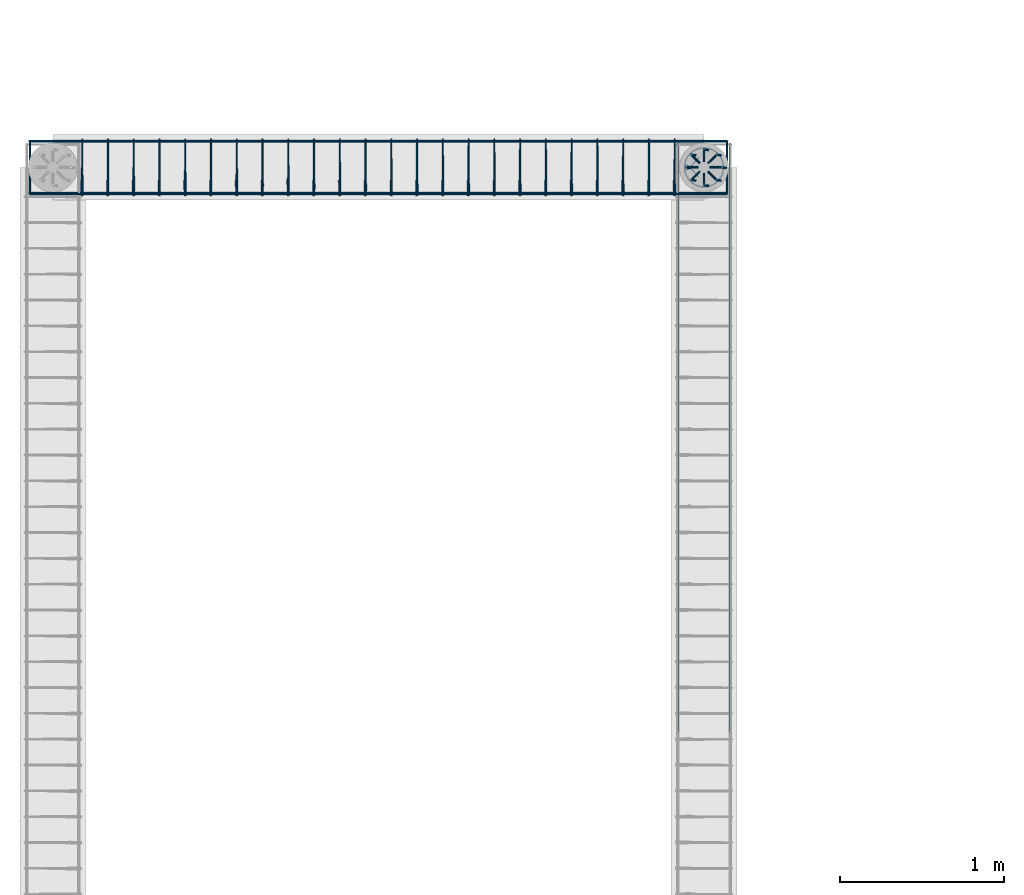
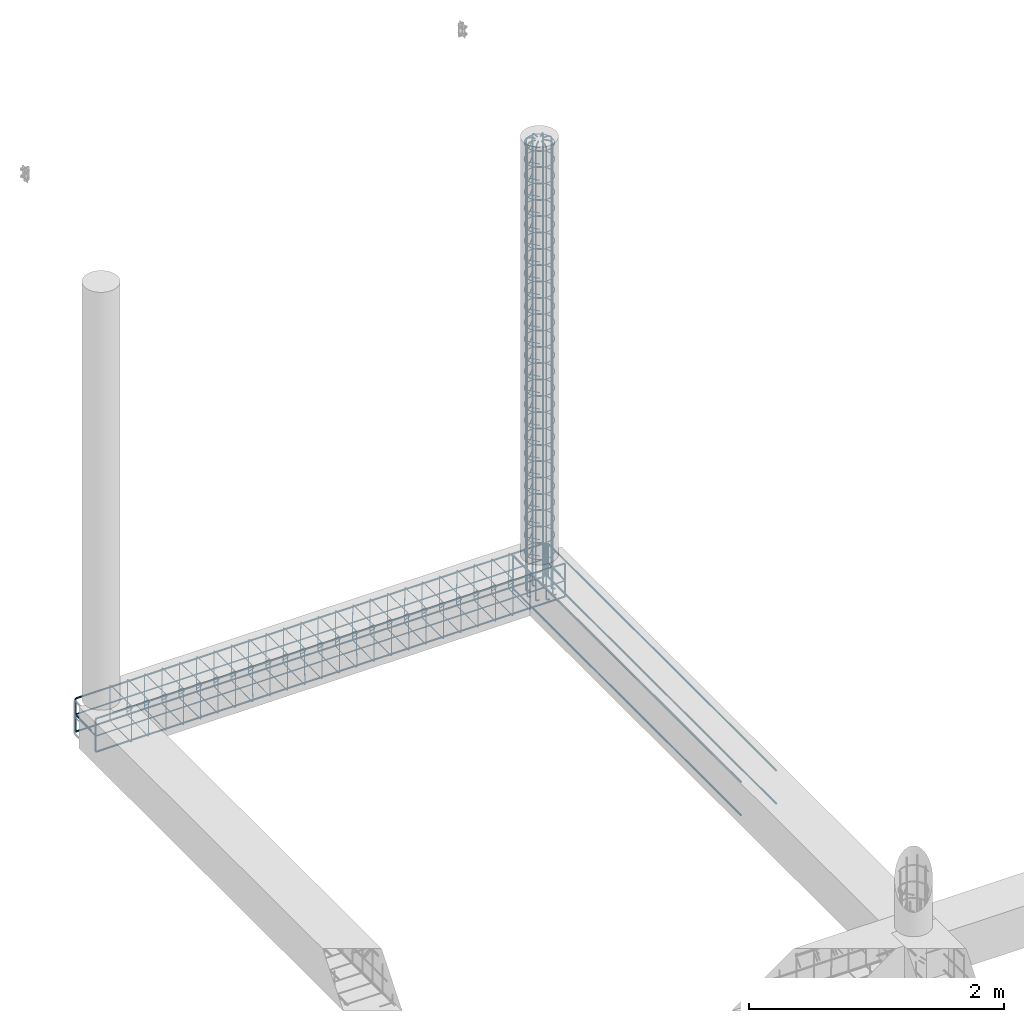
# One storey, part 16 of 20: 8 reinforcing bars.
"""IFC4 building model written with IfcOpenShell, lengths in metres."""

from ifc_helpers import new_model, entity, si_unit, origin_with_axes, place, context, project, spatial, source, transform, mapped, element, save


model = new_model("IFC4")

# Units and contexts
model_context = context("Model", 3, precision=1e-05, world=origin_with_axes())
ifc_project = project(units=[si_unit("LENGTHUNIT", "METRE"), si_unit("AREAUNIT", "SQUARE_METRE"), si_unit("VOLUMEUNIT", "CUBIC_METRE"), si_unit("MASSUNIT", "GRAM", prefix="KILO"), si_unit("TIMEUNIT", "SECOND"), si_unit("PLANEANGLEUNIT", "RADIAN"), si_unit("SOLIDANGLEUNIT", "STERADIAN"), si_unit("THERMODYNAMICTEMPERATUREUNIT", "DEGREE_CELSIUS")], contexts=[model_context])

# Site, building, storey
placement_1 = place(None, origin_with_axes())
site = spatial("IfcSite", under=ifc_project, at=placement_1, Name="Italia", CompositionType="ELEMENT")
building = spatial("IfcBuilding", under=site, at=placement_1, Name="Tettoia", CompositionType="ELEMENT")
storey = spatial("IfcBuildingStorey", under=building, at=placement_1, Name="Storey 0", CompositionType="ELEMENT", Elevation=0.0)

# Reinforcing bars
shared_shape_1 = source(origin_with_axes(), model_context, "Body", "AdvancedSweptSolid", [
    entity("IfcSweptDiskSolid", entity("IfcIndexedPolyCurve", entity("IfcCartesianPointList3D", [[3.99102, 19.816, -0.375], [3.97714, 19.8179, -0.375], [3.97097, 19.8187, -0.373761], [3.96573, 19.8194, -0.370231], [3.96223, 19.8198, -0.364949], [3.961, 19.82, -0.358718], [3.961, 19.82, 0.5725]]), [entity("IfcLineIndex", [1, 2]), entity("IfcLineIndex", [2, 3]), entity("IfcLineIndex", [3, 4]), entity("IfcLineIndex", [4, 5]), entity("IfcLineIndex", [5, 6]), entity("IfcLineIndex", [6, 7])], False), 0.007),
])
placement_2 = place(placement_1, origin_with_axes())
reinforcing_bar_1_placement = place(placement_2, origin_with_axes())
element("IfcReinforcingBar", 1, at=reinforcing_bar_1_placement, inside=storey, BarLength=0.97063, CrossSectionArea=0.00015394, NominalDiameter=0.014, context=model_context, shape_type="MappedRepresentation", body=[
    mapped(shared_shape_1, transform((0.186073, -0.077076, 0.0), x_axis=(1.0, 0.0, 0.0), y_axis=(0.0, 1.0, 0.0), z_axis=(0.0, 0.0, 1.0), scale=1.0)),
    mapped(shared_shape_1, transform((0.108999, -0.109003, 4.02629e-05), x_axis=(1.0, 0.0, 0.0), y_axis=(0.0, 1.0, 0.0), z_axis=(0.0, 0.0, 1.0), scale=1.0)),
    mapped(shared_shape_1, transform((0.031925, -0.077076, 0.0), x_axis=(1.0, 0.0, 0.0), y_axis=(0.0, 1.0, 0.0), z_axis=(0.0, 0.0, 1.0), scale=1.0)),
    mapped(shared_shape_1, transform((0.218087, -1.71661e-05, 0.0), x_axis=(1.0, 0.0, 0.0), y_axis=(0.0, 1.0, 0.0), z_axis=(0.0, 0.0, 1.0), scale=1.0)),
    mapped(shared_shape_1, transform((0.0, 0.0, 0.0), x_axis=(1.0, 0.0, 0.0), y_axis=(0.0, 1.0, 0.0), z_axis=(0.0, 0.0, 1.0), scale=1.0)),
    mapped(shared_shape_1, transform((0.186073, 0.0770721, 0.0), x_axis=(1.0, 0.0, 0.0), y_axis=(0.0, 1.0, 0.0), z_axis=(0.0, 0.0, 1.0), scale=1.0)),
    mapped(shared_shape_1, transform((0.031925, 0.0770721, 0.0), x_axis=(1.0, 0.0, 0.0), y_axis=(0.0, 1.0, 0.0), z_axis=(0.0, 0.0, 1.0), scale=1.0)),
    mapped(shared_shape_1, transform((0.109087, 0.108982, 0.0), x_axis=(1.0, 0.0, 0.0), y_axis=(0.0, 1.0, 0.0), z_axis=(0.0, 0.0, 1.0), scale=1.0)),
])
shared_shape_2 = source(origin_with_axes(), model_context, "Body", "AdvancedSweptSolid", [
    entity("IfcSweptDiskSolid", entity("IfcIndexedPolyCurve", entity("IfcCartesianPointList3D", [[3.961, 19.82, 0.0], [3.961, 19.82, 3.94], [3.96366, 19.82, 3.95339], [3.97125, 19.82, 3.96475], [3.98261, 19.82, 3.97234], [3.996, 19.82, 3.975], [4.036, 19.82, 3.975]]), [entity("IfcLineIndex", [1, 2]), entity("IfcLineIndex", [2, 3]), entity("IfcLineIndex", [3, 4]), entity("IfcLineIndex", [4, 5]), entity("IfcLineIndex", [5, 6]), entity("IfcLineIndex", [6, 7])], False), 0.007),
])
reinforcing_bar_2_placement = place(placement_2, origin_with_axes())
element("IfcReinforcingBar", 2, at=reinforcing_bar_2_placement, inside=storey, BarLength=4.03463, CrossSectionArea=0.00015394, NominalDiameter=0.014, context=model_context, shape_type="MappedRepresentation", body=[
    mapped(shared_shape_2, transform((20.9626, 30.9572, 0.0), x_axis=(-0.707116, 0.707097, 0.0), y_axis=(-0.707097, -0.707116, 0.0), z_axis=(0.0, 0.0, 1.0), scale=1.0)),
    mapped(shared_shape_2, transform((8.14, 39.64, 0.0), x_axis=(-1.0, 0.0, 0.0), y_axis=(0.0, -1.0, 0.0), z_axis=(0.0, 0.0, 1.0), scale=1.0)),
    mapped(shared_shape_2, transform((15.2067, 2.92709, 0.0), x_axis=(0.707115, 0.707099, 0.0), y_axis=(-0.707099, 0.707115, 0.0), z_axis=(0.0, 0.0, 1.0), scale=1.0)),
    mapped(shared_shape_2, transform((23.89, 15.75, 0.0), x_axis=(0.0, 1.0, 0.0), y_axis=(-1.0, 0.0, 0.0), z_axis=(0.0, 0.0, 1.0), scale=1.0)),
    mapped(shared_shape_2, transform((-12.8227, 8.68288, 0.0), x_axis=(0.707115, -0.707099, 0.0), y_axis=(0.707099, 0.707115, 0.0), z_axis=(0.0, 0.0, 1.0), scale=1.0)),
    mapped(shared_shape_2, transform((0.0, 0.0, 0.0), x_axis=(1.0, 0.0, 0.0), y_axis=(0.0, 1.0, 0.0), z_axis=(0.0, 0.0, 1.0), scale=1.0)),
    mapped(shared_shape_2, transform((-7.06671, 36.7129, 0.0), x_axis=(-0.707116, -0.707097, 0.0), y_axis=(0.707097, -0.707116, 0.0), z_axis=(0.0, 0.0, 1.0), scale=1.0)),
    mapped(shared_shape_2, transform((-15.75, 23.89, 0.0), x_axis=(0.0, -1.0, 0.0), y_axis=(1.0, 0.0, 0.0), z_axis=(0.0, 0.0, 1.0), scale=1.0)),
])
shared_shape_3 = source(origin_with_axes(), model_context, "Body", "AdvancedSweptSolid", [
    entity("IfcSweptDiskSolid", entity("IfcIndexedPolyCurve", entity("IfcCartesianPointList3D", [[4.03909, 19.7586, 0.029], [3.97569, 19.8305, 0.029], [3.96882, 19.8338, 0.029], [3.96197, 19.8343, 0.029], [3.95811, 19.8337, 0.029], [3.95473, 19.8318, 0.029], [3.95237, 19.8287, 0.029], [3.95137, 19.8249, 0.029], [3.9511, 19.8207, 0.029], [3.95111, 19.8193, 0.029], [3.95246, 19.8022, 0.029], [3.95271, 19.8006, 0.029], [3.9567, 19.784, 0.029], [3.95718, 19.7825, 0.029], [3.96372, 19.7667, 0.029], [3.96443, 19.7653, 0.029], [3.97336, 19.7508, 0.029], [3.97429, 19.7495, 0.029], [3.98538, 19.7365, 0.029], [3.98649, 19.7354, 0.029], [3.99949, 19.7243, 0.029], [4.00076, 19.7234, 0.029], [4.01533, 19.7144, 0.029], [4.01673, 19.7137, 0.029], [4.03252, 19.7072, 0.029], [4.03401, 19.7067, 0.029], [4.05063, 19.7027, 0.029], [4.05218, 19.7025, 0.029], [4.06922, 19.7011, 0.029], [4.07078, 19.7011, 0.029], [4.08782, 19.7025, 0.029], [4.08937, 19.7027, 0.029], [4.10599, 19.7067, 0.029], [4.10748, 19.7072, 0.029], [4.12327, 19.7137, 0.029], [4.12467, 19.7144, 0.029], [4.13924, 19.7234, 0.029], [4.14051, 19.7243, 0.029], [4.15351, 19.7354, 0.029], [4.15462, 19.7365, 0.029], [4.16571, 19.7495, 0.029], [4.16664, 19.7508, 0.029], [4.17557, 19.7653, 0.029], [4.17628, 19.7667, 0.029], [4.18282, 19.7825, 0.029], [4.1833, 19.784, 0.029], [4.18729, 19.8006, 0.029], [4.18754, 19.8022, 0.029], [4.18888, 19.8192, 0.029], [4.18888, 19.8208, 0.029], [4.18754, 19.8378, 0.029], [4.18729, 19.8394, 0.029], [4.1833, 19.856, 0.029], [4.18282, 19.8575, 0.029], [4.17628, 19.8733, 0.029], [4.17557, 19.8747, 0.029], [4.16664, 19.8892, 0.029], [4.16571, 19.8905, 0.029], [4.15462, 19.9035, 0.029], [4.15351, 19.9046, 0.029], [4.14051, 19.9157, 0.029], [4.13924, 19.9166, 0.029], [4.12467, 19.9256, 0.029], [4.12327, 19.9263, 0.029], [4.10748, 19.9328, 0.029], [4.10599, 19.9333, 0.029], [4.08937, 19.9373, 0.029], [4.08782, 19.9375, 0.029], [4.07078, 19.9389, 0.029], [4.06922, 19.9389, 0.029], [4.05218, 19.9375, 0.029], [4.05063, 19.9373, 0.029], [4.03401, 19.9333, 0.029], [4.03252, 19.9328, 0.029], [4.01673, 19.9263, 0.029], [4.01533, 19.9256, 0.029], [4.00076, 19.9166, 0.029], [3.99949, 19.9157, 0.029], [3.98649, 19.9046, 0.029], [3.98538, 19.9035, 0.029], [3.97429, 19.8905, 0.029], [3.97336, 19.8892, 0.029], [3.96443, 19.8747, 0.029], [3.96372, 19.8733, 0.029], [3.95718, 19.8575, 0.029], [3.9567, 19.856, 0.029], [3.95271, 19.8394, 0.029], [3.95246, 19.8378, 0.029], [3.95111, 19.8207, 0.029], [3.9511, 19.8193, 0.029], [3.95137, 19.8151, 0.029], [3.95237, 19.8113, 0.029], [3.95473, 19.8082, 0.029], [3.95811, 19.8063, 0.029], [3.96197, 19.8057, 0.029], [3.96882, 19.8062, 0.029], [3.97569, 19.8095, 0.029], [4.03909, 19.8814, 0.029]]), [entity("IfcLineIndex", [1, 2]), entity("IfcLineIndex", [2, 3]), entity("IfcLineIndex", [3, 4]), entity("IfcLineIndex", [4, 5]), entity("IfcLineIndex", [5, 6]), entity("IfcLineIndex", [6, 7]), entity("IfcLineIndex", [7, 8]), entity("IfcLineIndex", [8, 9]), entity("IfcLineIndex", [9, 10]), entity("IfcLineIndex", [10, 11]), entity("IfcLineIndex", [11, 12]), entity("IfcLineIndex", [12, 13]), entity("IfcLineIndex", [13, 14]), entity("IfcLineIndex", [14, 15]), entity("IfcLineIndex", [15, 16]), entity("IfcLineIndex", [16, 17]), entity("IfcLineIndex", [17, 18]), entity("IfcLineIndex", [18, 19]), entity("IfcLineIndex", [19, 20]), entity("IfcLineIndex", [20, 21]), entity("IfcLineIndex", [21, 22]), entity("IfcLineIndex", [22, 23]), entity("IfcLineIndex", [23, 24]), entity("IfcLineIndex", [24, 25]), entity("IfcLineIndex", [25, 26]), entity("IfcLineIndex", [26, 27]), entity("IfcLineIndex", [27, 28]), entity("IfcLineIndex", [28, 29]), entity("IfcLineIndex", [29, 30]), entity("IfcLineIndex", [30, 31]), entity("IfcLineIndex", [31, 32]), entity("IfcLineIndex", [32, 33]), entity("IfcLineIndex", [33, 34]), entity("IfcLineIndex", [34, 35]), entity("IfcLineIndex", [35, 36]), entity("IfcLineIndex", [36, 37]), entity("IfcLineIndex", [37, 38]), entity("IfcLineIndex", [38, 39]), entity("IfcLineIndex", [39, 40]), entity("IfcLineIndex", [40, 41]), entity("IfcLineIndex", [41, 42]), entity("IfcLineIndex", [42, 43]), entity("IfcLineIndex", [43, 44]), entity("IfcLineIndex", [44, 45]), entity("IfcLineIndex", [45, 46]), entity("IfcLineIndex", [46, 47]), entity("IfcLineIndex", [47, 48]), entity("IfcLineIndex", [48, 49]), entity("IfcLineIndex", [49, 50]), entity("IfcLineIndex", [50, 51]), entity("IfcLineIndex", [51, 52]), entity("IfcLineIndex", [52, 53]), entity("IfcLineIndex", [53, 54]), entity("IfcLineIndex", [54, 55]), entity("IfcLineIndex", [55, 56]), entity("IfcLineIndex", [56, 57]), entity("IfcLineIndex", [57, 58]), entity("IfcLineIndex", [58, 59]), entity("IfcLineIndex", [59, 60]), entity("IfcLineIndex", [60, 61]), entity("IfcLineIndex", [61, 62]), entity("IfcLineIndex", [62, 63]), entity("IfcLineIndex", [63, 64]), entity("IfcLineIndex", [64, 65]), entity("IfcLineIndex", [65, 66]), entity("IfcLineIndex", [66, 67]), entity("IfcLineIndex", [67, 68]), entity("IfcLineIndex", [68, 69]), entity("IfcLineIndex", [69, 70]), entity("IfcLineIndex", [70, 71]), entity("IfcLineIndex", [71, 72]), entity("IfcLineIndex", [72, 73]), entity("IfcLineIndex", [73, 74]), entity("IfcLineIndex", [74, 75]), entity("IfcLineIndex", [75, 76]), entity("IfcLineIndex", [76, 77]), entity("IfcLineIndex", [77, 78]), entity("IfcLineIndex", [78, 79]), entity("IfcLineIndex", [79, 80]), entity("IfcLineIndex", [80, 81]), entity("IfcLineIndex", [81, 82]), entity("IfcLineIndex", [82, 83]), entity("IfcLineIndex", [83, 84]), entity("IfcLineIndex", [84, 85]), entity("IfcLineIndex", [85, 86]), entity("IfcLineIndex", [86, 87]), entity("IfcLineIndex", [87, 88]), entity("IfcLineIndex", [88, 89]), entity("IfcLineIndex", [89, 90]), entity("IfcLineIndex", [90, 91]), entity("IfcLineIndex", [91, 92]), entity("IfcLineIndex", [92, 93]), entity("IfcLineIndex", [93, 94]), entity("IfcLineIndex", [94, 95]), entity("IfcLineIndex", [95, 96]), entity("IfcLineIndex", [96, 97]), entity("IfcLineIndex", [97, 98])], False), 0.004),
])
reinforcing_bar_3_placement = place(placement_2, origin_with_axes())
element("IfcReinforcingBar", 3, at=reinforcing_bar_3_placement, inside=storey, BarLength=1.00815, CrossSectionArea=5.0265e-05, NominalDiameter=0.008, context=model_context, shape_type="MappedRepresentation", body=[
    mapped(shared_shape_3, transform((0.0, 0.0, 1.8768), x_axis=(1.0, 0.0, 0.0), y_axis=(0.0, 1.0, 0.0), z_axis=(0.0, 0.0, 1.0), scale=1.0)),
    mapped(shared_shape_3, transform((0.0, 0.0, 1.7204), x_axis=(1.0, 0.0, 0.0), y_axis=(0.0, 1.0, 0.0), z_axis=(0.0, 0.0, 1.0), scale=1.0)),
    mapped(shared_shape_3, transform((0.0, 0.0, 1.0948), x_axis=(1.0, 0.0, 0.0), y_axis=(0.0, 1.0, 0.0), z_axis=(0.0, 0.0, 1.0), scale=1.0)),
    mapped(shared_shape_3, transform((0.0, 0.0, 1.4076), x_axis=(1.0, 0.0, 0.0), y_axis=(0.0, 1.0, 0.0), z_axis=(0.0, 0.0, 1.0), scale=1.0)),
    mapped(shared_shape_3, transform((0.0, 0.0, 1.2512), x_axis=(1.0, 0.0, 0.0), y_axis=(0.0, 1.0, 0.0), z_axis=(0.0, 0.0, 1.0), scale=1.0)),
    mapped(shared_shape_3, transform((0.0, 0.0, 1.564), x_axis=(1.0, 0.0, 0.0), y_axis=(0.0, 1.0, 0.0), z_axis=(0.0, 0.0, 1.0), scale=1.0)),
    mapped(shared_shape_3, transform((0.0, 0.0, 0.9384), x_axis=(1.0, 0.0, 0.0), y_axis=(0.0, 1.0, 0.0), z_axis=(0.0, 0.0, 1.0), scale=1.0)),
    mapped(shared_shape_3, transform((0.0, 0.0, 0.782), x_axis=(1.0, 0.0, 0.0), y_axis=(0.0, 1.0, 0.0), z_axis=(0.0, 0.0, 1.0), scale=1.0)),
    mapped(shared_shape_3, transform((0.0, 0.0, 0.1564), x_axis=(1.0, 0.0, 0.0), y_axis=(0.0, 1.0, 0.0), z_axis=(0.0, 0.0, 1.0), scale=1.0)),
    mapped(shared_shape_3, transform((0.0, 0.0, 0.4692), x_axis=(1.0, 0.0, 0.0), y_axis=(0.0, 1.0, 0.0), z_axis=(0.0, 0.0, 1.0), scale=1.0)),
    mapped(shared_shape_3, transform((0.0, 0.0, 0.3128), x_axis=(1.0, 0.0, 0.0), y_axis=(0.0, 1.0, 0.0), z_axis=(0.0, 0.0, 1.0), scale=1.0)),
    mapped(shared_shape_3, transform((0.0, 0.0, 0.6256), x_axis=(1.0, 0.0, 0.0), y_axis=(0.0, 1.0, 0.0), z_axis=(0.0, 0.0, 1.0), scale=1.0)),
    mapped(shared_shape_3, transform((0.0, 0.0, 0.0), x_axis=(1.0, 0.0, 0.0), y_axis=(0.0, 1.0, 0.0), z_axis=(0.0, 0.0, 1.0), scale=1.0)),
    mapped(shared_shape_3, transform((0.0, 0.0, 3.91), x_axis=(1.0, 0.0, 0.0), y_axis=(0.0, 1.0, 0.0), z_axis=(0.0, 0.0, 1.0), scale=1.0)),
    mapped(shared_shape_3, transform((0.0, 0.0, 3.2844), x_axis=(1.0, 0.0, 0.0), y_axis=(0.0, 1.0, 0.0), z_axis=(0.0, 0.0, 1.0), scale=1.0)),
    mapped(shared_shape_3, transform((0.0, 0.0, 3.5972), x_axis=(1.0, 0.0, 0.0), y_axis=(0.0, 1.0, 0.0), z_axis=(0.0, 0.0, 1.0), scale=1.0)),
    mapped(shared_shape_3, transform((0.0, 0.0, 3.4408), x_axis=(1.0, 0.0, 0.0), y_axis=(0.0, 1.0, 0.0), z_axis=(0.0, 0.0, 1.0), scale=1.0)),
    mapped(shared_shape_3, transform((0.0, 0.0, 3.7536), x_axis=(1.0, 0.0, 0.0), y_axis=(0.0, 1.0, 0.0), z_axis=(0.0, 0.0, 1.0), scale=1.0)),
    mapped(shared_shape_3, transform((0.0, 0.0, 3.128), x_axis=(1.0, 0.0, 0.0), y_axis=(0.0, 1.0, 0.0), z_axis=(0.0, 0.0, 1.0), scale=1.0)),
    mapped(shared_shape_3, transform((0.0, 0.0, 2.9716), x_axis=(1.0, 0.0, 0.0), y_axis=(0.0, 1.0, 0.0), z_axis=(0.0, 0.0, 1.0), scale=1.0)),
    mapped(shared_shape_3, transform((0.0, 0.0, 2.346), x_axis=(1.0, 0.0, 0.0), y_axis=(0.0, 1.0, 0.0), z_axis=(0.0, 0.0, 1.0), scale=1.0)),
    mapped(shared_shape_3, transform((0.0, 0.0, 2.6588), x_axis=(1.0, 0.0, 0.0), y_axis=(0.0, 1.0, 0.0), z_axis=(0.0, 0.0, 1.0), scale=1.0)),
    mapped(shared_shape_3, transform((0.0, 0.0, 2.5024), x_axis=(1.0, 0.0, 0.0), y_axis=(0.0, 1.0, 0.0), z_axis=(0.0, 0.0, 1.0), scale=1.0)),
    mapped(shared_shape_3, transform((0.0, 0.0, 2.8152), x_axis=(1.0, 0.0, 0.0), y_axis=(0.0, 1.0, 0.0), z_axis=(0.0, 0.0, 1.0), scale=1.0)),
    mapped(shared_shape_3, transform((0.0, 0.0, 2.1896), x_axis=(1.0, 0.0, 0.0), y_axis=(0.0, 1.0, 0.0), z_axis=(0.0, 0.0, 1.0), scale=1.0)),
    mapped(shared_shape_3, transform((0.0, 0.0, 2.0332), x_axis=(1.0, 0.0, 0.0), y_axis=(0.0, 1.0, 0.0), z_axis=(0.0, 0.0, 1.0), scale=1.0)),
])
shared_shape_4 = source(origin_with_axes(), model_context, "Body", "AdvancedSweptSolid", [
    entity("IfcSweptDiskSolid", entity("IfcIndexedPolyCurve", entity("IfcCartesianPointList3D", [[0.283, 19.7197, -0.120711], [0.282444, 19.6519, -0.0529289], [0.2824, 19.649, -0.0458579], [0.28236, 19.649, -0.039], [0.282337, 19.6498, -0.0351732], [0.282315, 19.6519, -0.0319289], [0.282292, 19.6552, -0.0297612], [0.28227, 19.659, -0.029], [0.280403, 19.981, -0.029], [0.28038, 19.9848, -0.0297612], [0.280357, 19.9881, -0.0319289], [0.280335, 19.9902, -0.0351732], [0.280312, 19.991, -0.039], [0.278445, 19.991, -0.361], [0.278422, 19.9902, -0.364827], [0.2784, 19.9881, -0.368071], [0.278377, 19.9848, -0.370239], [0.278355, 19.981, -0.371], [0.276488, 19.659, -0.371], [0.276465, 19.6552, -0.370239], [0.276442, 19.6519, -0.368071], [0.27642, 19.6498, -0.364827], [0.276397, 19.649, -0.361], [0.27453, 19.649, -0.039], [0.274507, 19.6498, -0.0351732], [0.274485, 19.6519, -0.0319289], [0.274462, 19.6552, -0.0297612], [0.27444, 19.659, -0.029], [0.2744, 19.6659, -0.029], [0.274355, 19.6729, -0.0319289], [0.2738, 19.7407, -0.0997114]]), [entity("IfcLineIndex", [1, 2]), entity("IfcLineIndex", [2, 3]), entity("IfcLineIndex", [3, 4]), entity("IfcLineIndex", [4, 5]), entity("IfcLineIndex", [5, 6]), entity("IfcLineIndex", [6, 7]), entity("IfcLineIndex", [7, 8]), entity("IfcLineIndex", [8, 9]), entity("IfcLineIndex", [9, 10]), entity("IfcLineIndex", [10, 11]), entity("IfcLineIndex", [11, 12]), entity("IfcLineIndex", [12, 13]), entity("IfcLineIndex", [13, 14]), entity("IfcLineIndex", [14, 15]), entity("IfcLineIndex", [15, 16]), entity("IfcLineIndex", [16, 17]), entity("IfcLineIndex", [17, 18]), entity("IfcLineIndex", [18, 19]), entity("IfcLineIndex", [19, 20]), entity("IfcLineIndex", [20, 21]), entity("IfcLineIndex", [21, 22]), entity("IfcLineIndex", [22, 23]), entity("IfcLineIndex", [23, 24]), entity("IfcLineIndex", [24, 25]), entity("IfcLineIndex", [25, 26]), entity("IfcLineIndex", [26, 27]), entity("IfcLineIndex", [27, 28]), entity("IfcLineIndex", [28, 29]), entity("IfcLineIndex", [29, 30]), entity("IfcLineIndex", [30, 31])], False), 0.004),
])
reinforcing_bar_4_placement = place(placement_2, origin_with_axes())
element("IfcReinforcingBar", 4, at=reinforcing_bar_4_placement, inside=storey, BarLength=1.5868, CrossSectionArea=5.0265e-05, NominalDiameter=0.008, context=model_context, shape_type="MappedRepresentation", body=[
    mapped(shared_shape_4, transform((0.313946, 0.0, 0.0), x_axis=(1.0, 0.0, 0.0), y_axis=(0.0, 1.0, 0.0), z_axis=(0.0, 0.0, 1.0), scale=1.0)),
    mapped(shared_shape_4, transform((0.157043, 0.0, 0.0), x_axis=(1.0, 0.0, 0.0), y_axis=(0.0, 1.0, 0.0), z_axis=(0.0, 0.0, 1.0), scale=1.0)),
    mapped(shared_shape_4, transform((0.0, 0.0, 0.0), x_axis=(1.0, 0.0, 0.0), y_axis=(0.0, 1.0, 0.0), z_axis=(0.0, 0.0, 1.0), scale=1.0)),
    mapped(shared_shape_4, transform((1.25624, 0.0, 0.0), x_axis=(1.0, 0.0, 0.0), y_axis=(0.0, 1.0, 0.0), z_axis=(0.0, 0.0, 1.0), scale=1.0)),
    mapped(shared_shape_4, transform((1.57032, 0.0, 0.0), x_axis=(1.0, 0.0, 0.0), y_axis=(0.0, 1.0, 0.0), z_axis=(0.0, 0.0, 1.0), scale=1.0)),
    mapped(shared_shape_4, transform((1.41328, 0.0, 0.0), x_axis=(1.0, 0.0, 0.0), y_axis=(0.0, 1.0, 0.0), z_axis=(0.0, 0.0, 1.0), scale=1.0)),
    mapped(shared_shape_4, transform((1.72737, 0.0, 0.0), x_axis=(1.0, 0.0, 0.0), y_axis=(0.0, 1.0, 0.0), z_axis=(0.0, 0.0, 1.0), scale=1.0)),
    mapped(shared_shape_4, transform((1.09919, 0.0, 0.0), x_axis=(1.0, 0.0, 0.0), y_axis=(0.0, 1.0, 0.0), z_axis=(0.0, 0.0, 1.0), scale=1.0)),
    mapped(shared_shape_4, transform((0.942149, 0.0, 0.0), x_axis=(1.0, 0.0, 0.0), y_axis=(0.0, 1.0, 0.0), z_axis=(0.0, 0.0, 1.0), scale=1.0)),
    mapped(shared_shape_4, transform((2.04145, 0.0, 0.0), x_axis=(1.0, 0.0, 0.0), y_axis=(0.0, 1.0, 0.0), z_axis=(0.0, 0.0, 1.0), scale=1.0)),
    mapped(shared_shape_4, transform((1.88441, 0.0, 0.0), x_axis=(1.0, 0.0, 0.0), y_axis=(0.0, 1.0, 0.0), z_axis=(0.0, 0.0, 1.0), scale=1.0)),
    mapped(shared_shape_4, transform((0.785106, 0.0, 0.0), x_axis=(1.0, 0.0, 0.0), y_axis=(0.0, 1.0, 0.0), z_axis=(0.0, 0.0, 1.0), scale=1.0)),
    mapped(shared_shape_4, transform((3.45484, 0.0, 0.0), x_axis=(1.0, 0.0, 0.0), y_axis=(0.0, 1.0, 0.0), z_axis=(0.0, 0.0, 1.0), scale=1.0)),
    mapped(shared_shape_4, transform((3.2978, 0.0, 0.0), x_axis=(1.0, 0.0, 0.0), y_axis=(0.0, 1.0, 0.0), z_axis=(0.0, 0.0, 1.0), scale=1.0)),
    mapped(shared_shape_4, transform((3.14076, 0.0, 0.0), x_axis=(1.0, 0.0, 0.0), y_axis=(0.0, 1.0, 0.0), z_axis=(0.0, 0.0, 1.0), scale=1.0)),
    mapped(shared_shape_4, transform((2.98371, 0.0, 0.0), x_axis=(1.0, 0.0, 0.0), y_axis=(0.0, 1.0, 0.0), z_axis=(0.0, 0.0, 1.0), scale=1.0)),
    mapped(shared_shape_4, transform((2.82667, 0.0, 0.0), x_axis=(1.0, 0.0, 0.0), y_axis=(0.0, 1.0, 0.0), z_axis=(0.0, 0.0, 1.0), scale=1.0)),
    mapped(shared_shape_4, transform((3.61189, 0.0, 0.0), x_axis=(1.0, 0.0, 0.0), y_axis=(0.0, 1.0, 0.0), z_axis=(0.0, 0.0, 1.0), scale=1.0)),
    mapped(shared_shape_4, transform((2.51258, 0.0, 0.0), x_axis=(1.0, 0.0, 0.0), y_axis=(0.0, 1.0, 0.0), z_axis=(0.0, 0.0, 1.0), scale=1.0)),
    mapped(shared_shape_4, transform((2.35554, 0.0, 0.0), x_axis=(1.0, 0.0, 0.0), y_axis=(0.0, 1.0, 0.0), z_axis=(0.0, 0.0, 1.0), scale=1.0)),
    mapped(shared_shape_4, transform((2.1985, 0.0, 0.0), x_axis=(1.0, 0.0, 0.0), y_axis=(0.0, 1.0, 0.0), z_axis=(0.0, 0.0, 1.0), scale=1.0)),
    mapped(shared_shape_4, transform((2.66963, 0.0, 0.0), x_axis=(1.0, 0.0, 0.0), y_axis=(0.0, 1.0, 0.0), z_axis=(0.0, 0.0, 1.0), scale=1.0)),
    mapped(shared_shape_4, transform((0.628033, 0.0, 0.0), x_axis=(1.0, 0.0, 0.0), y_axis=(0.0, 1.0, 0.0), z_axis=(0.0, 0.0, 1.0), scale=1.0)),
    mapped(shared_shape_4, transform((0.470989, 0.0, 0.0), x_axis=(1.0, 0.0, 0.0), y_axis=(0.0, 1.0, 0.0), z_axis=(0.0, 0.0, 1.0), scale=1.0)),
])
shared_shape_5 = source(origin_with_axes(), model_context, "Body", "AdvancedSweptSolid", [
    entity("IfcSweptDiskSolid", entity("IfcIndexedPolyCurve", entity("IfcCartesianPointList3D", [[-0.04, 19.731, -0.194], [-0.04, 19.971, -0.194], [-0.0392388, 19.9748, -0.194], [-0.0370711, 19.9781, -0.194], [-0.0338268, 19.9802, -0.194], [-0.03, 19.981, -0.194], [4.2, 19.981, -0.194], [4.20383, 19.9802, -0.194], [4.20707, 19.9781, -0.194], [4.20924, 19.9748, -0.194], [4.21, 19.971, -0.194], [4.21, 19.731, -0.194]]), [entity("IfcLineIndex", [1, 2]), entity("IfcLineIndex", [2, 3]), entity("IfcLineIndex", [3, 4]), entity("IfcLineIndex", [4, 5]), entity("IfcLineIndex", [5, 6]), entity("IfcLineIndex", [6, 7]), entity("IfcLineIndex", [7, 8]), entity("IfcLineIndex", [8, 9]), entity("IfcLineIndex", [9, 10]), entity("IfcLineIndex", [10, 11]), entity("IfcLineIndex", [11, 12])], False), 0.006),
])
reinforcing_bar_5_placement = place(placement_2, origin_with_axes())
element("IfcReinforcingBar", 5, at=reinforcing_bar_5_placement, inside=storey, BarLength=4.74121, CrossSectionArea=0.0001131, NominalDiameter=0.012, context=model_context, shape_type="MappedRepresentation", body=[
    mapped(shared_shape_5, transform((0.0, 39.64, -0.4), x_axis=(1.0, 0.0, 0.0), y_axis=(0.0, -1.0, 0.0), z_axis=(0.0, 0.0, -1.0), scale=1.0)),
    mapped(shared_shape_5, transform((0.0, 0.0, 0.0), x_axis=(1.0, 0.0, 0.0), y_axis=(0.0, 1.0, 0.0), z_axis=(0.0, 0.0, 1.0), scale=1.0)),
])
shared_shape_6 = source(origin_with_axes(), model_context, "Body", "AdvancedSweptSolid", [
    entity("IfcSweptDiskSolid", entity("IfcIndexedPolyCurve", entity("IfcCartesianPointList3D", [[1.50227, 19.661, -0.359], [2.085, 19.661, -0.359], [4.07, 19.661, -0.359], [4.2, 19.661, -0.359], [4.20383, 19.661, -0.358239], [4.20707, 19.661, -0.356071], [4.20924, 19.661, -0.352827], [4.21, 19.661, -0.349], [4.21, 19.661, -0.109]]), [entity("IfcLineIndex", [1, 2]), entity("IfcLineIndex", [2, 3]), entity("IfcLineIndex", [3, 4]), entity("IfcLineIndex", [4, 5]), entity("IfcLineIndex", [5, 6]), entity("IfcLineIndex", [6, 7]), entity("IfcLineIndex", [7, 8]), entity("IfcLineIndex", [8, 9])], False), 0.008),
])
reinforcing_bar_6_placement = place(placement_2, origin_with_axes())
element("IfcReinforcingBar", 6, at=reinforcing_bar_6_placement, inside=storey, BarLength=2.95333, CrossSectionArea=0.00020106, NominalDiameter=0.016, context=model_context, shape_type="MappedRepresentation", body=[
    mapped(shared_shape_6, transform((0.0, 0.317999, 0.0), x_axis=(1.0, 0.0, 0.0), y_axis=(0.0, 1.0, 0.0), z_axis=(0.0, 0.0, 1.0), scale=1.0)),
    mapped(shared_shape_6, transform((0.0, 0.0, 0.0), x_axis=(1.0, 0.0, 0.0), y_axis=(0.0, 1.0, 0.0), z_axis=(0.0, 0.0, 1.0), scale=1.0)),
    mapped(shared_shape_6, transform((0.0, 39.64, -0.4), x_axis=(1.0, 0.0, 0.0), y_axis=(0.0, -1.0, 0.0), z_axis=(0.0, 0.0, -1.0), scale=1.0)),
    mapped(shared_shape_6, transform((0.0, 39.322, -0.4), x_axis=(1.0, 0.0, 0.0), y_axis=(0.0, -1.0, 0.0), z_axis=(0.0, 0.0, -1.0), scale=1.0)),
])
shared_shape_7 = source(origin_with_axes(), model_context, "Body", "AdvancedSweptSolid", [
    entity("IfcSweptDiskSolid", entity("IfcIndexedPolyCurve", entity("IfcCartesianPointList3D", [[-0.04, 19.661, -0.109], [-0.04, 19.661, -0.349], [-0.0392388, 19.661, -0.352827], [-0.0370711, 19.661, -0.356071], [-0.0338268, 19.661, -0.358239], [-0.03, 19.661, -0.359], [0.1, 19.661, -0.359], [2.085, 19.661, -0.359], [2.66773, 19.661, -0.359]]), [entity("IfcLineIndex", [1, 2]), entity("IfcLineIndex", [2, 3]), entity("IfcLineIndex", [3, 4]), entity("IfcLineIndex", [4, 5]), entity("IfcLineIndex", [5, 6]), entity("IfcLineIndex", [6, 7]), entity("IfcLineIndex", [7, 8]), entity("IfcLineIndex", [8, 9])], False), 0.008),
])
reinforcing_bar_7_placement = place(placement_2, origin_with_axes())
element("IfcReinforcingBar", 7, at=reinforcing_bar_7_placement, inside=storey, BarLength=2.95333, CrossSectionArea=0.00020106, NominalDiameter=0.016, context=model_context, shape_type="MappedRepresentation", body=[
    mapped(shared_shape_7, transform((0.0, 0.317999, 0.0), x_axis=(1.0, 0.0, 0.0), y_axis=(0.0, 1.0, 0.0), z_axis=(0.0, 0.0, 1.0), scale=1.0)),
    mapped(shared_shape_7, transform((0.0, 0.0, 0.0), x_axis=(1.0, 0.0, 0.0), y_axis=(0.0, 1.0, 0.0), z_axis=(0.0, 0.0, 1.0), scale=1.0)),
    mapped(shared_shape_7, transform((0.0, 39.64, -0.4), x_axis=(1.0, 0.0, 0.0), y_axis=(0.0, -1.0, 0.0), z_axis=(0.0, 0.0, -1.0), scale=1.0)),
    mapped(shared_shape_7, transform((0.0, 39.322, -0.4), x_axis=(1.0, 0.0, 0.0), y_axis=(0.0, -1.0, 0.0), z_axis=(0.0, 0.0, -1.0), scale=1.0)),
])
shared_shape_8 = source(origin_with_axes(), model_context, "Body", "AdvancedSweptSolid", [
    entity("IfcSweptDiskSolid", entity("IfcIndexedPolyCurve", entity("IfcCartesianPointList3D", [[4.229, 16.3773, -0.359], [4.229, 16.96, -0.359], [4.229, 19.82, -0.359], [4.229, 19.95, -0.359], [4.229, 19.9538, -0.358239], [4.229, 19.9571, -0.356071], [4.229, 19.9592, -0.352827], [4.229, 19.96, -0.349], [4.229, 19.96, -0.109]]), [entity("IfcLineIndex", [1, 2]), entity("IfcLineIndex", [2, 3]), entity("IfcLineIndex", [3, 4]), entity("IfcLineIndex", [4, 5]), entity("IfcLineIndex", [5, 6]), entity("IfcLineIndex", [6, 7]), entity("IfcLineIndex", [7, 8]), entity("IfcLineIndex", [8, 9])], False), 0.008),
])
reinforcing_bar_8_placement = place(placement_2, origin_with_axes())
element("IfcReinforcingBar", 8, at=reinforcing_bar_8_placement, inside=storey, BarLength=3.82834, CrossSectionArea=0.00020106, NominalDiameter=0.016, context=model_context, shape_type="MappedRepresentation", body=[
    mapped(shared_shape_8, transform((-0.318, 0.0, 0.0), x_axis=(1.0, 0.0, 0.0), y_axis=(0.0, 1.0, 0.0), z_axis=(0.0, 0.0, 1.0), scale=1.0)),
    mapped(shared_shape_8, transform((0.0, 0.0, 0.0), x_axis=(1.0, 0.0, 0.0), y_axis=(0.0, 1.0, 0.0), z_axis=(0.0, 0.0, 1.0), scale=1.0)),
    mapped(shared_shape_8, transform((8.14, 0.0, -0.4), x_axis=(-1.0, 0.0, 0.0), y_axis=(0.0, 1.0, 0.0), z_axis=(0.0, 0.0, -1.0), scale=1.0)),
    mapped(shared_shape_8, transform((8.458, 0.0, -0.4), x_axis=(-1.0, 0.0, 0.0), y_axis=(0.0, 1.0, 0.0), z_axis=(0.0, 0.0, -1.0), scale=1.0)),
])

save(model, "model.ifc")
